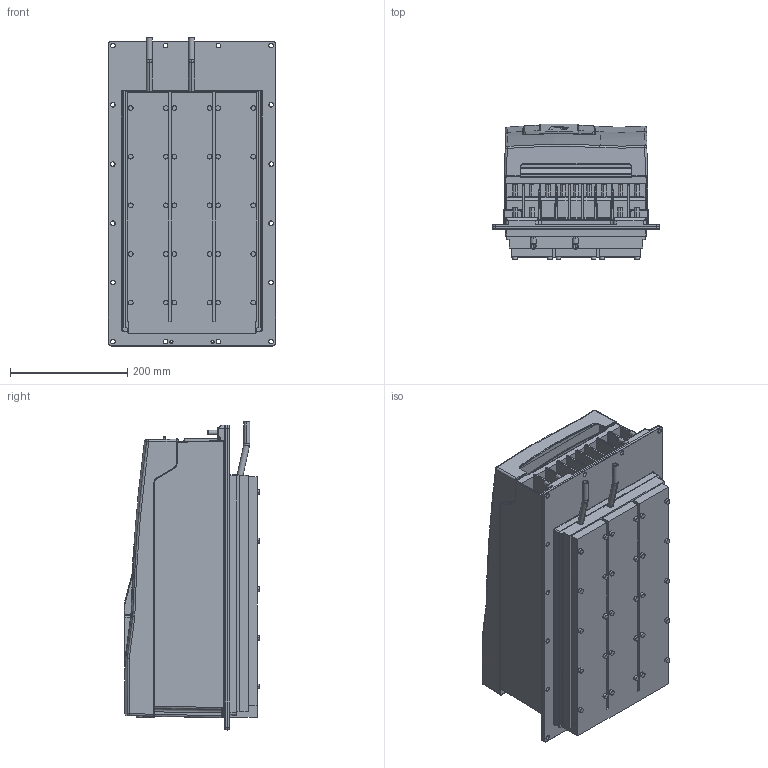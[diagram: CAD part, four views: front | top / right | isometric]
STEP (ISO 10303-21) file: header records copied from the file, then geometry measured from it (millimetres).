
FILE_DESCRIPTION (( 'STEP AP214' ), '1' );
FILE_NAME ('10070744_000.STEP', '2022-02-16T10:16:38', ( '' ), ( '' ), 'SwSTEP 2.0', 'SolidWorks 2019', '' );
FILE_SCHEMA (( 'AUTOMOTIVE_DESIGN' ));
Length unit declared in the file: millimetre
Products named in the file (11): Kundenmodell^10027052_000; 10027052_000_Geh„usebaugruppe F6-6 (Kundenmodell); Kundenmodell^10051076_000_Kundenmodell mit Geberbuchsen; 10061793_000_Deckelbaugruppe F6-6 (Kundenmodell); Kundenmodell^10061793_000; 10070744_000; 10059764_000_Blindabdeckung (Kundenmodell); 10070738_000_Leistungsteil F6-6  TW1 (Kundenmodell); 10051076_000_Kundenmodell; Kundenmodell^10059764_000; Kundenmodell^10070738_000
Assembly tree (10 placements, depth 4):
  10070744_000
    10070738_000_Leistungsteil F6-6  TW1 (Kundenmodell)
      Kundenmodell^10070738_000
    10027052_000_Geh„usebaugruppe F6-6 (Kundenmodell)
      10061793_000_Deckelbaugruppe F6-6 (Kundenmodell)
        Kundenmodell^10061793_000
      Kundenmodell^10027052_000
    10051076_000_Kundenmodell
      10059764_000_Blindabdeckung (Kundenmodell)
        Kundenmodell^10059764_000
      Kundenmodell^10051076_000_Kundenmodell mit Geberbuchsen
Bounding box: 285 x 231.4 x 525.5 mm (x, y, z)
Volume: 22382601.3 mm3; surface area: 1311212.1 mm2
Topology: 12 solids, 20 shells, 3049 faces, 7579 edges, 4509 vertices
Faces by surface type: cylinder 1101, plane 959, bspline 620, torus 180, sphere 111, cone 78
Entity records: 102853 total; most frequent: CARTESIAN_POINT 35596, ORIENTED_EDGE 14842, DIRECTION 13093, EDGE_CURVE 7421, AXIS2_PLACEMENT_3D 4800, VERTEX_POINT 4507, LINE 3493, VECTOR 3493
